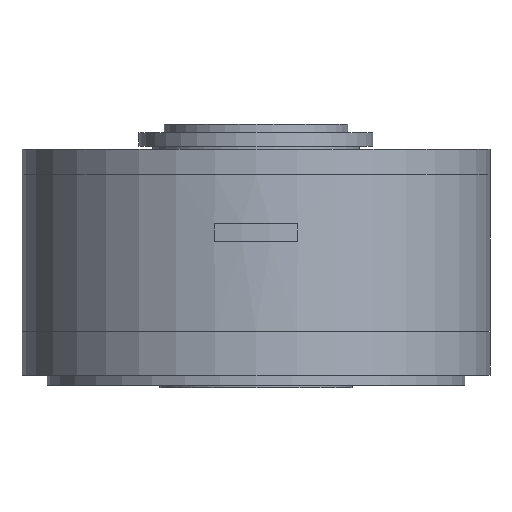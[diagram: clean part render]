
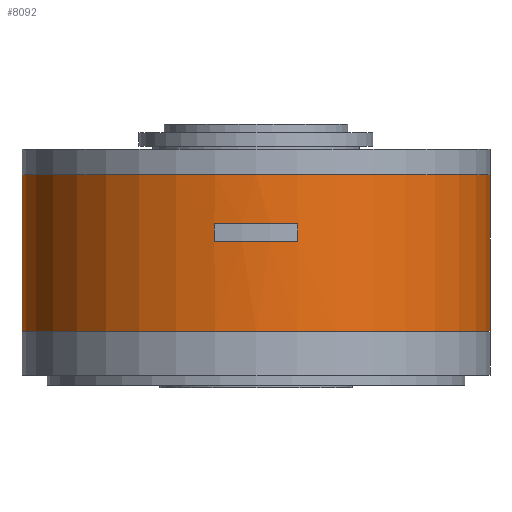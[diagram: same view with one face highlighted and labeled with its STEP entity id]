
A CAD part, front view. The second image highlights one B-rep face of the part: STEP entity #8092.
In plain terms, the highlighted cylindrical face has radius 140 mm (diameter 280 mm), a partial arc.
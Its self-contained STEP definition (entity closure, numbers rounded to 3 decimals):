
#83 = DIRECTION ( 'NONE',  ( 1., 0., 0. ) ) ;
#84 = DIRECTION ( 'NONE',  ( 0., 0., 1. ) ) ;
#86 = DIRECTION ( 'NONE',  ( 0., 0., -1. ) ) ;
#91 = CARTESIAN_POINT ( 'NONE',  ( 0., 0., -15.1 ) ) ;
#98 = CARTESIAN_POINT ( 'NONE',  ( -25., -137.75, 0. ) ) ;
#841 = EDGE_CURVE ( 'NONE', #13946, #13336, #8838, .T. ) ;
#842 = EDGE_CURVE ( 'NONE', #13592, #13811, #8841, .T. ) ;
#864 = EDGE_CURVE ( 'NONE', #13522, #13811, #8887, .T. ) ;
#877 = EDGE_CURVE ( 'NONE', #13522, #13389, #8918, .T. ) ;
#903 = EDGE_CURVE ( 'NONE', #13389, #13592, #8955, .T. ) ;
#919 = EDGE_CURVE ( 'NONE', #14009, #13407, #8977, .T. ) ;
#972 = EDGE_CURVE ( 'NONE', #13336, #14009, #9040, .T. ) ;
#1550 = EDGE_LOOP ( 'NONE', ( #6754, #6751, #10367, #10373 ) ) ;
#1567 = EDGE_LOOP ( 'NONE', ( #6761, #6759, #6753, #6731 ) ) ;
#1822 = DIRECTION ( 'NONE',  ( 0., 0., 1. ) ) ;
#1838 = CARTESIAN_POINT ( 'NONE',  ( 25., -137.75, 0. ) ) ;
#1877 = DIRECTION ( 'NONE',  ( 0., 0., 1. ) ) ;
#2177 = CARTESIAN_POINT ( 'NONE',  ( 0., 0., 0. ) ) ;
#2182 = DIRECTION ( 'NONE',  ( 1., 0., 0. ) ) ;
#2188 = DIRECTION ( 'NONE',  ( 0., 0., 1. ) ) ;
#3384 = EDGE_CURVE ( 'NONE', #13407, #13946, #9161, .T. ) ;
#6731 = ORIENTED_EDGE ( 'NONE', *, *, #842, .F. ) ;
#6751 = ORIENTED_EDGE ( 'NONE', *, *, #919, .F. ) ;
#6753 = ORIENTED_EDGE ( 'NONE', *, *, #864, .T. ) ;
#6754 = ORIENTED_EDGE ( 'NONE', *, *, #3384, .F. ) ;
#6759 = ORIENTED_EDGE ( 'NONE', *, *, #877, .F. ) ;
#6761 = ORIENTED_EDGE ( 'NONE', *, *, #903, .F. ) ;
#8092 = ADVANCED_FACE ( 'NONE', ( #9648, #9644 ), #9649, .T. ) ;
#8836 = VECTOR ( 'NONE', #86, 1000. ) ;
#8838 = LINE ( 'NONE', #98, #8836 ) ;
#8841 = CIRCLE ( 'NONE', #11134, 140. ) ;
#8874 = VECTOR ( 'NONE', #14371, 1000. ) ;
#8887 = LINE ( 'NONE', #14378, #8874 ) ;
#8918 = CIRCLE ( 'NONE', #11154, 140. ) ;
#8955 = LINE ( 'NONE', #14320, #8956 ) ;
#8956 = VECTOR ( 'NONE', #1877, 1000. ) ;
#8972 = VECTOR ( 'NONE', #1822, 1000. ) ;
#8977 = LINE ( 'NONE', #1838, #8972 ) ;
#9040 = CIRCLE ( 'NONE', #11214, 140. ) ;
#9161 = CIRCLE ( 'NONE', #11266, 140. ) ;
#9644 = FACE_BOUND ( 'NONE', #1550, .T. ) ;
#9648 = FACE_OUTER_BOUND ( 'NONE', #1567, .T. ) ;
#9649 = CYLINDRICAL_SURFACE ( 'NONE', #11456, 140. ) ;
#10104 = DIRECTION ( 'NONE',  ( -1., 0., 0. ) ) ;
#10105 = DIRECTION ( 'NONE',  ( 0., 0., -1. ) ) ;
#10110 = CARTESIAN_POINT ( 'NONE',  ( 0., 0., -44.5 ) ) ;
#10367 = ORIENTED_EDGE ( 'NONE', *, *, #972, .F. ) ;
#10373 = ORIENTED_EDGE ( 'NONE', *, *, #841, .F. ) ;
#11030 = CARTESIAN_POINT ( 'NONE',  ( 0., 0., -55. ) ) ;
#11042 = DIRECTION ( 'NONE',  ( 0., 0., 1. ) ) ;
#11044 = DIRECTION ( 'NONE',  ( 1., 0., 0. ) ) ;
#11134 = AXIS2_PLACEMENT_3D ( 'NONE', #91, #84, #83 ) ;
#11154 = AXIS2_PLACEMENT_3D ( 'NONE', #14411, #14410, #14408 ) ;
#11214 = AXIS2_PLACEMENT_3D ( 'NONE', #11030, #11042, #11044 ) ;
#11266 = AXIS2_PLACEMENT_3D ( 'NONE', #10110, #10105, #10104 ) ;
#11456 = AXIS2_PLACEMENT_3D ( 'NONE', #2177, #2188, #2182 ) ;
#11768 = CARTESIAN_POINT ( 'NONE',  ( -25., -137.75, -44.5 ) ) ;
#11803 = CARTESIAN_POINT ( 'NONE',  ( 25., -137.75, -55. ) ) ;
#11850 = CARTESIAN_POINT ( 'NONE',  ( -140., 0., -15.1 ) ) ;
#11952 = CARTESIAN_POINT ( 'NONE',  ( -25., -137.75, -55. ) ) ;
#12026 = CARTESIAN_POINT ( 'NONE',  ( -140., 0., -108.9 ) ) ;
#12089 = CARTESIAN_POINT ( 'NONE',  ( 140., 0., -15.1 ) ) ;
#12108 = CARTESIAN_POINT ( 'NONE',  ( 140., 0., -108.9 ) ) ;
#12236 = CARTESIAN_POINT ( 'NONE',  ( 25., -137.75, -44.5 ) ) ;
#13336 = VERTEX_POINT ( 'NONE', #11952 ) ;
#13389 = VERTEX_POINT ( 'NONE', #12026 ) ;
#13407 = VERTEX_POINT ( 'NONE', #12236 ) ;
#13522 = VERTEX_POINT ( 'NONE', #12108 ) ;
#13592 = VERTEX_POINT ( 'NONE', #11850 ) ;
#13811 = VERTEX_POINT ( 'NONE', #12089 ) ;
#13946 = VERTEX_POINT ( 'NONE', #11768 ) ;
#14009 = VERTEX_POINT ( 'NONE', #11803 ) ;
#14320 = CARTESIAN_POINT ( 'NONE',  ( -140., 0., 0. ) ) ;
#14371 = DIRECTION ( 'NONE',  ( 0., 0., 1. ) ) ;
#14378 = CARTESIAN_POINT ( 'NONE',  ( 140., 0., 0. ) ) ;
#14408 = DIRECTION ( 'NONE',  ( -1., 0., 0. ) ) ;
#14410 = DIRECTION ( 'NONE',  ( 0., 0., -1. ) ) ;
#14411 = CARTESIAN_POINT ( 'NONE',  ( 0., 0., -108.9 ) ) ;
